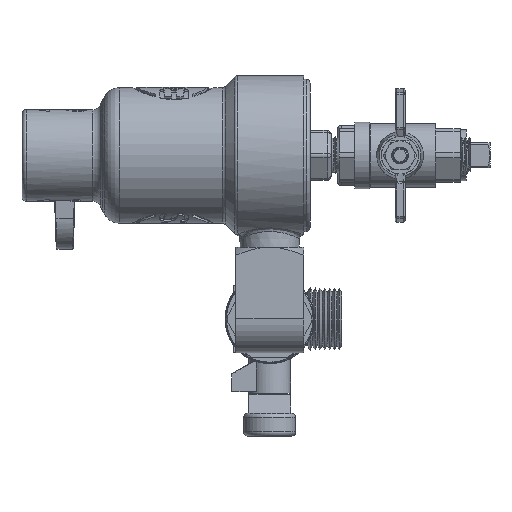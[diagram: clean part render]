
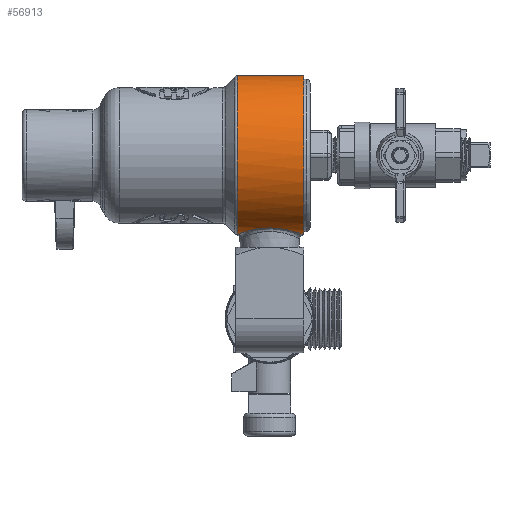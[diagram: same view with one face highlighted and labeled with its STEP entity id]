
A CAD part, left-side view. The second image highlights one B-rep face of the part: STEP entity #56913.
In plain terms, the highlighted cylindrical face has radius 29.743 mm (diameter 59.487 mm), a partial arc.
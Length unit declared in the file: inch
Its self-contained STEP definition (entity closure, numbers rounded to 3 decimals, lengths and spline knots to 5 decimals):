
#3422=FACE_OUTER_BOUND('',#6972,.T.);
#6972=EDGE_LOOP('',(#37849,#37850,#37851,#37852,#37853,#37854,#37855));
#10264=CIRCLE('',#60324,1.171);
#10277=CIRCLE('',#60348,1.171);
#10279=CIRCLE('',#60350,1.171);
#11438=B_SPLINE_CURVE_WITH_KNOTS('',3,(#84017,#84018,#84019,#84020,#84021,
#84022,#84023),.UNSPECIFIED.,.F.,.F.,(4,1,1,1,4),(-8.22298,-7.78211,
-7.34123,-6.90035,-6.84907),.UNSPECIFIED.);
#11439=B_SPLINE_CURVE_WITH_KNOTS('',3,(#84024,#84025,#84026,#84027,#84028,
#84029,#84030,#84031,#84032,#84033,#84034,#84035),.UNSPECIFIED.,.F.,.F.,
(4,1,1,1,1,1,1,1,1,4),(-6.84907,-6.45947,-5.57772,
-4.98988,-4.69596,-3.81421,-3.37333,
-2.93245,-2.49158,-2.0507),.UNSPECIFIED.);
#13755=LINE('',#90940,#18606);
#13757=LINE('',#90960,#18608);
#18606=VECTOR('',#67440,0.3937);
#18608=VECTOR('',#67456,0.3937);
#23297=VERTEX_POINT('',#83847);
#23298=VERTEX_POINT('',#83849);
#23326=VERTEX_POINT('',#84012);
#23327=VERTEX_POINT('',#84014);
#23328=VERTEX_POINT('',#84016);
#23329=VERTEX_POINT('',#84067);
#23332=VERTEX_POINT('',#84076);
#28142=EDGE_CURVE('',#23298,#23297,#10264,.T.);
#28178=EDGE_CURVE('',#23327,#23328,#11438,.T.);
#28179=EDGE_CURVE('',#23328,#23326,#11439,.T.);
#28181=EDGE_CURVE('',#23326,#23329,#10277,.T.);
#28185=EDGE_CURVE('',#23332,#23327,#10279,.T.);
#28806=EDGE_CURVE('',#23332,#23298,#13755,.T.);
#28813=EDGE_CURVE('',#23329,#23297,#13757,.T.);
#37849=ORIENTED_EDGE('',*,*,#28142,.T.);
#37850=ORIENTED_EDGE('',*,*,#28813,.F.);
#37851=ORIENTED_EDGE('',*,*,#28181,.F.);
#37852=ORIENTED_EDGE('',*,*,#28179,.F.);
#37853=ORIENTED_EDGE('',*,*,#28178,.F.);
#37854=ORIENTED_EDGE('',*,*,#28185,.F.);
#37855=ORIENTED_EDGE('',*,*,#28806,.T.);
#52488=CYLINDRICAL_SURFACE('',#60583,1.171);
#56913=ADVANCED_FACE('',(#3422),#52488,.T.);
#60324=AXIS2_PLACEMENT_3D('',#83850,#66706,#66707);
#60348=AXIS2_PLACEMENT_3D('',#84068,#66769,#66770);
#60350=AXIS2_PLACEMENT_3D('',#84081,#66773,#66774);
#60583=AXIS2_PLACEMENT_3D('',#90959,#67454,#67455);
#66706=DIRECTION('center_axis',(0.,1.,0.));
#66707=DIRECTION('ref_axis',(-1.,0.,0.));
#66769=DIRECTION('center_axis',(0.,1.,0.));
#66770=DIRECTION('ref_axis',(1.,0.,0.));
#66773=DIRECTION('center_axis',(0.,1.,0.));
#66774=DIRECTION('ref_axis',(1.,0.,0.));
#67440=DIRECTION('',(0.,-1.,0.));
#67454=DIRECTION('center_axis',(0.,1.,0.));
#67455=DIRECTION('ref_axis',(-1.,0.,0.));
#67456=DIRECTION('',(0.,-1.,0.));
#83847=CARTESIAN_POINT('',(1.14673,0.,0.23718));
#83849=CARTESIAN_POINT('',(1.14673,0.,-0.23718));
#83850=CARTESIAN_POINT('Origin',(0.,0.,
0.));
#84012=CARTESIAN_POINT('',(-0.14686,0.97515,-1.16175));
#84014=CARTESIAN_POINT('',(0.14686,0.97515,-1.16175));
#84016=CARTESIAN_POINT('',(0.47814,0.5,-1.06894));
#84017=CARTESIAN_POINT('Ctrl Pts',(0.14686,0.97515,
-1.16175));
#84018=CARTESIAN_POINT('Ctrl Pts',(0.20829,0.95443,
-1.15399));
#84019=CARTESIAN_POINT('Ctrl Pts',(0.32171,0.8871,
-1.12942));
#84020=CARTESIAN_POINT('Ctrl Pts',(0.4409,0.72645,-1.08606));
#84021=CARTESIAN_POINT('Ctrl Pts',(0.47647,0.5841,-1.06958));
#84022=CARTESIAN_POINT('Ctrl Pts',(0.47816,0.50794,
-1.0689));
#84023=CARTESIAN_POINT('Ctrl Pts',(0.47816,0.5,
-1.06892));
#84024=CARTESIAN_POINT('Ctrl Pts',(0.47816,0.5,
-1.06892));
#84025=CARTESIAN_POINT('Ctrl Pts',(0.47811,0.4397,-1.06902));
#84026=CARTESIAN_POINT('Ctrl Pts',(0.44348,0.24272,-1.08511));
#84027=CARTESIAN_POINT('Ctrl Pts',(0.24401,0.02541,
-1.16049));
#84028=CARTESIAN_POINT('Ctrl Pts',(-0.02361,-0.01336,
-1.17657));
#84029=CARTESIAN_POINT('Ctrl Pts',(-0.27559,0.06037,
-1.148));
#84030=CARTESIAN_POINT('Ctrl Pts',(-0.44893,0.24839,
-1.08336));
#84031=CARTESIAN_POINT('Ctrl Pts',(-0.49131,0.5248,
-1.06257));
#84032=CARTESIAN_POINT('Ctrl Pts',(-0.44089,0.7264,
-1.08612));
#84033=CARTESIAN_POINT('Ctrl Pts',(-0.32171,0.88714,
-1.12939));
#84034=CARTESIAN_POINT('Ctrl Pts',(-0.20829,0.95443,
-1.15399));
#84035=CARTESIAN_POINT('Ctrl Pts',(-0.14686,0.97515,
-1.16175));
#84067=CARTESIAN_POINT('',(1.14673,0.97515,0.23718));
#84068=CARTESIAN_POINT('Origin',(0.,0.97515,
0.));
#84076=CARTESIAN_POINT('',(1.14673,0.97515,-0.23718));
#84081=CARTESIAN_POINT('Origin',(0.,0.97515,
0.));
#90940=CARTESIAN_POINT('',(1.14673,0.,-0.23718));
#90959=CARTESIAN_POINT('Origin',(0.,0.5,0.));
#90960=CARTESIAN_POINT('',(1.14673,0.5,0.23718));
